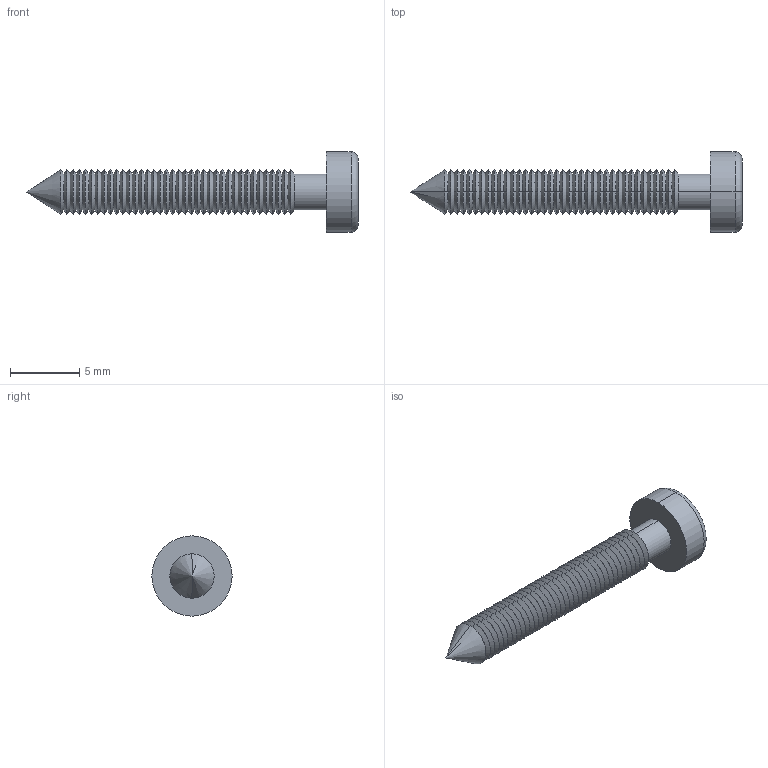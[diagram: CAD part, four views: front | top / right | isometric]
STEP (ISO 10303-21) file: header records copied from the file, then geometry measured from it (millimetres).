
FILE_DESCRIPTION (( 'STEP AP214' ), '1' );
FILE_NAME ('Cargol 3,24x24.STEP', '2016-09-22T09:34:55', ( 'aaa' ), ( '' ), 'SwSTEP 2.0', 'SolidWorks 2013', '' );
FILE_SCHEMA (( 'AUTOMOTIVE_DESIGN' ));
Length unit declared in the file: millimetre
Products named in the file (1): Cargol 3,24x24
Bounding box: 24 x 5.8 x 5.8 mm (x, y, z)
Volume: 189.9 mm3; surface area: 379 mm2
Topology: 1 solids, 1 shells, 173 faces, 356 edges, 185 vertices
Faces by surface type: cone 152, plane 15, cylinder 4, torus 2
Entity records: 4440 total; most frequent: DIRECTION 864, CARTESIAN_POINT 713, ORIENTED_EDGE 708, EDGE_CURVE 354, AXIS2_PLACEMENT_3D 336, LINE 192, VECTOR 192, VERTEX_POINT 185
